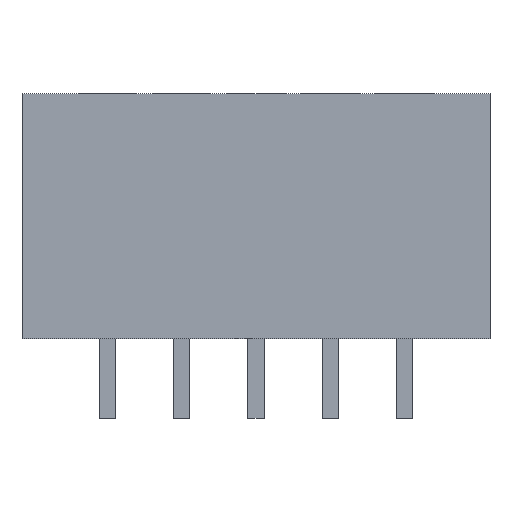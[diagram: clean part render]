
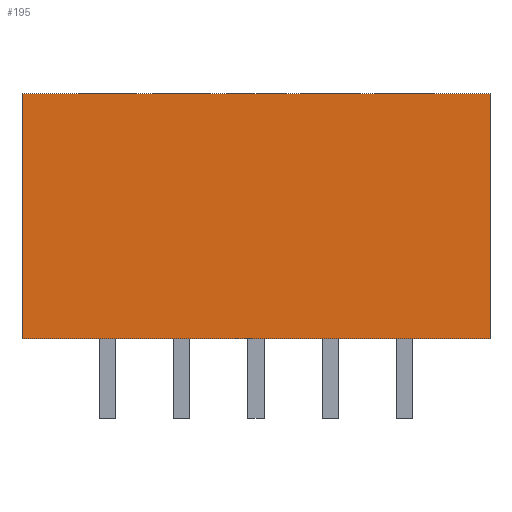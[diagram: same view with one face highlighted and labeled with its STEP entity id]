
A CAD part, front view. The second image highlights one B-rep face of the part: STEP entity #195.
In plain terms, the highlighted planar face has unit normal (0, -1, 0).
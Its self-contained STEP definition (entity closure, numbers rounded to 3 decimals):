
#79 = EDGE_CURVE('',#80,#82,#84,.T.);
#80 = VERTEX_POINT('',#81);
#81 = CARTESIAN_POINT('',(-3.45,-5.,0.));
#82 = VERTEX_POINT('',#83);
#83 = CARTESIAN_POINT('',(-3.45,-5.,9.9));
#84 = SURFACE_CURVE('',#85,(#89,#101),.PCURVE_S1.);
#85 = LINE('',#86,#87);
#86 = CARTESIAN_POINT('',(-3.45,-5.,0.));
#87 = VECTOR('',#88,1.);
#88 = DIRECTION('',(0.,0.,1.));
#89 = PCURVE('',#90,#95);
#90 = PLANE('',#91);
#91 = AXIS2_PLACEMENT_3D('',#92,#93,#94);
#92 = CARTESIAN_POINT('',(-3.45,-5.,0.));
#93 = DIRECTION('',(1.,0.,0.));
#94 = DIRECTION('',(0.,0.,1.));
#95 = DEFINITIONAL_REPRESENTATION('',(#96),#100);
#96 = LINE('',#97,#98);
#97 = CARTESIAN_POINT('',(0.,0.));
#98 = VECTOR('',#99,1.);
#99 = DIRECTION('',(1.,0.));
#100 = ( GEOMETRIC_REPRESENTATION_CONTEXT(2) 
PARAMETRIC_REPRESENTATION_CONTEXT() REPRESENTATION_CONTEXT('2D SPACE',''
  ) );
#101 = PCURVE('',#102,#107);
#102 = PLANE('',#103);
#103 = AXIS2_PLACEMENT_3D('',#104,#105,#106);
#104 = CARTESIAN_POINT('',(-3.45,-5.,0.));
#105 = DIRECTION('',(0.,1.,0.));
#106 = DIRECTION('',(0.,0.,1.));
#107 = DEFINITIONAL_REPRESENTATION('',(#108),#112);
#108 = LINE('',#109,#110);
#109 = CARTESIAN_POINT('',(0.,0.));
#110 = VECTOR('',#111,1.);
#111 = DIRECTION('',(1.,0.));
#112 = ( GEOMETRIC_REPRESENTATION_CONTEXT(2) 
PARAMETRIC_REPRESENTATION_CONTEXT() REPRESENTATION_CONTEXT('2D SPACE',''
  ) );
#130 = PLANE('',#131);
#131 = AXIS2_PLACEMENT_3D('',#132,#133,#134);
#132 = CARTESIAN_POINT('',(-3.45,-5.,0.));
#133 = DIRECTION('',(0.,0.,1.));
#134 = DIRECTION('',(1.,0.,0.));
#184 = PLANE('',#185);
#185 = AXIS2_PLACEMENT_3D('',#186,#187,#188);
#186 = CARTESIAN_POINT('',(-3.45,-5.,9.9));
#187 = DIRECTION('',(0.,0.,1.));
#188 = DIRECTION('',(1.,0.,0.));
#195 = ADVANCED_FACE('',(#196),#102,.F.);
#196 = FACE_BOUND('',#197,.F.);
#197 = EDGE_LOOP('',(#198,#221,#222,#245));
#198 = ORIENTED_EDGE('',*,*,#199,.F.);
#199 = EDGE_CURVE('',#80,#200,#202,.T.);
#200 = VERTEX_POINT('',#201);
#201 = CARTESIAN_POINT('',(15.45,-5.,0.));
#202 = SURFACE_CURVE('',#203,(#207,#214),.PCURVE_S1.);
#203 = LINE('',#204,#205);
#204 = CARTESIAN_POINT('',(-3.45,-5.,0.));
#205 = VECTOR('',#206,1.);
#206 = DIRECTION('',(1.,0.,0.));
#207 = PCURVE('',#102,#208);
#208 = DEFINITIONAL_REPRESENTATION('',(#209),#213);
#209 = LINE('',#210,#211);
#210 = CARTESIAN_POINT('',(0.,0.));
#211 = VECTOR('',#212,1.);
#212 = DIRECTION('',(0.,1.));
#213 = ( GEOMETRIC_REPRESENTATION_CONTEXT(2) 
PARAMETRIC_REPRESENTATION_CONTEXT() REPRESENTATION_CONTEXT('2D SPACE',''
  ) );
#214 = PCURVE('',#130,#215);
#215 = DEFINITIONAL_REPRESENTATION('',(#216),#220);
#216 = LINE('',#217,#218);
#217 = CARTESIAN_POINT('',(0.,0.));
#218 = VECTOR('',#219,1.);
#219 = DIRECTION('',(1.,0.));
#220 = ( GEOMETRIC_REPRESENTATION_CONTEXT(2) 
PARAMETRIC_REPRESENTATION_CONTEXT() REPRESENTATION_CONTEXT('2D SPACE',''
  ) );
#221 = ORIENTED_EDGE('',*,*,#79,.T.);
#222 = ORIENTED_EDGE('',*,*,#223,.T.);
#223 = EDGE_CURVE('',#82,#224,#226,.T.);
#224 = VERTEX_POINT('',#225);
#225 = CARTESIAN_POINT('',(15.45,-5.,9.9));
#226 = SURFACE_CURVE('',#227,(#231,#238),.PCURVE_S1.);
#227 = LINE('',#228,#229);
#228 = CARTESIAN_POINT('',(-3.45,-5.,9.9));
#229 = VECTOR('',#230,1.);
#230 = DIRECTION('',(1.,0.,0.));
#231 = PCURVE('',#102,#232);
#232 = DEFINITIONAL_REPRESENTATION('',(#233),#237);
#233 = LINE('',#234,#235);
#234 = CARTESIAN_POINT('',(9.9,0.));
#235 = VECTOR('',#236,1.);
#236 = DIRECTION('',(0.,1.));
#237 = ( GEOMETRIC_REPRESENTATION_CONTEXT(2) 
PARAMETRIC_REPRESENTATION_CONTEXT() REPRESENTATION_CONTEXT('2D SPACE',''
  ) );
#238 = PCURVE('',#184,#239);
#239 = DEFINITIONAL_REPRESENTATION('',(#240),#244);
#240 = LINE('',#241,#242);
#241 = CARTESIAN_POINT('',(0.,0.));
#242 = VECTOR('',#243,1.);
#243 = DIRECTION('',(1.,0.));
#244 = ( GEOMETRIC_REPRESENTATION_CONTEXT(2) 
PARAMETRIC_REPRESENTATION_CONTEXT() REPRESENTATION_CONTEXT('2D SPACE',''
  ) );
#245 = ORIENTED_EDGE('',*,*,#246,.F.);
#246 = EDGE_CURVE('',#200,#224,#247,.T.);
#247 = SURFACE_CURVE('',#248,(#252,#259),.PCURVE_S1.);
#248 = LINE('',#249,#250);
#249 = CARTESIAN_POINT('',(15.45,-5.,0.));
#250 = VECTOR('',#251,1.);
#251 = DIRECTION('',(0.,0.,1.));
#252 = PCURVE('',#102,#253);
#253 = DEFINITIONAL_REPRESENTATION('',(#254),#258);
#254 = LINE('',#255,#256);
#255 = CARTESIAN_POINT('',(0.,18.9));
#256 = VECTOR('',#257,1.);
#257 = DIRECTION('',(1.,0.));
#258 = ( GEOMETRIC_REPRESENTATION_CONTEXT(2) 
PARAMETRIC_REPRESENTATION_CONTEXT() REPRESENTATION_CONTEXT('2D SPACE',''
  ) );
#259 = PCURVE('',#260,#265);
#260 = PLANE('',#261);
#261 = AXIS2_PLACEMENT_3D('',#262,#263,#264);
#262 = CARTESIAN_POINT('',(15.45,-5.,0.));
#263 = DIRECTION('',(1.,0.,0.));
#264 = DIRECTION('',(0.,0.,1.));
#265 = DEFINITIONAL_REPRESENTATION('',(#266),#270);
#266 = LINE('',#267,#268);
#267 = CARTESIAN_POINT('',(0.,0.));
#268 = VECTOR('',#269,1.);
#269 = DIRECTION('',(1.,0.));
#270 = ( GEOMETRIC_REPRESENTATION_CONTEXT(2) 
PARAMETRIC_REPRESENTATION_CONTEXT() REPRESENTATION_CONTEXT('2D SPACE',''
  ) );
